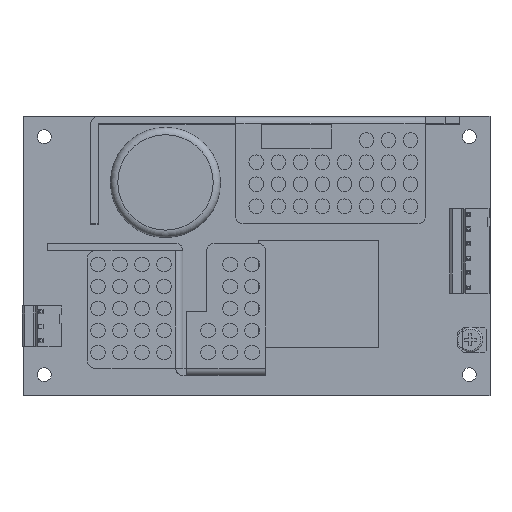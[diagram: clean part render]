
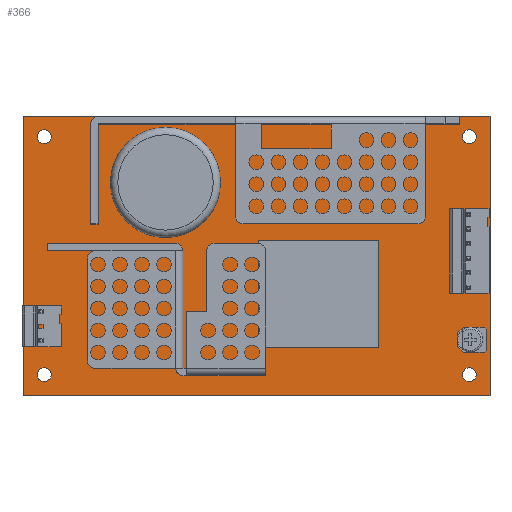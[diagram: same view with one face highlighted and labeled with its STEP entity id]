
A CAD part, top view. The second image highlights one B-rep face of the part: STEP entity #366.
In plain terms, the highlighted planar face has unit normal (0, 0, 1).
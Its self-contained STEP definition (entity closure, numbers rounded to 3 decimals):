
#112=CARTESIAN_POINT('',(101.034,-3.695,1.6));
#113=VERTEX_POINT('',#112);
#114=CARTESIAN_POINT('',(99.134,-3.695,1.6));
#115=DIRECTION('',(0.0,0.0,-1.0));
#116=DIRECTION('',(-1.0,0.0,0.0));
#117=AXIS2_PLACEMENT_3D('',#114,#115,#116);
#118=CIRCLE('',#117,1.9);
#119=EDGE_CURVE('',#113,#113,#118,.T.);
#140=CARTESIAN_POINT('',(-14.766,-3.695,1.6));
#141=VERTEX_POINT('',#140);
#142=CARTESIAN_POINT('',(-16.666,-3.695,1.6));
#143=DIRECTION('',(0.0,0.0,-1.0));
#144=DIRECTION('',(-1.0,0.0,0.0));
#145=AXIS2_PLACEMENT_3D('',#142,#143,#144);
#146=CIRCLE('',#145,1.9);
#147=EDGE_CURVE('',#141,#141,#146,.T.);
#168=CARTESIAN_POINT('',(101.034,61.105,1.6));
#169=VERTEX_POINT('',#168);
#170=CARTESIAN_POINT('',(99.134,61.105,1.6));
#171=DIRECTION('',(0.0,0.0,-1.0));
#172=DIRECTION('',(-1.0,0.0,0.0));
#173=AXIS2_PLACEMENT_3D('',#170,#171,#172);
#174=CIRCLE('',#173,1.9);
#175=EDGE_CURVE('',#169,#169,#174,.T.);
#196=CARTESIAN_POINT('',(-14.766,61.105,1.6));
#197=VERTEX_POINT('',#196);
#198=CARTESIAN_POINT('',(-16.666,61.105,1.6));
#199=DIRECTION('',(0.0,0.0,-1.0));
#200=DIRECTION('',(-1.0,0.0,0.0));
#201=AXIS2_PLACEMENT_3D('',#198,#199,#200);
#202=CIRCLE('',#201,1.9);
#203=EDGE_CURVE('',#197,#197,#202,.T.);
#224=CARTESIAN_POINT('',(104.734,66.705,1.6));
#225=VERTEX_POINT('',#224);
#226=CARTESIAN_POINT('',(104.734,-9.495,1.6));
#227=VERTEX_POINT('',#226);
#228=CARTESIAN_POINT('',(104.734,66.705,1.6));
#229=DIRECTION('',(0.0,-1.0,0.0));
#230=VECTOR('',#229,76.2);
#231=LINE('',#228,#230);
#232=EDGE_CURVE('',#225,#227,#231,.T.);
#264=CARTESIAN_POINT('',(-22.266,-9.495,1.6));
#265=VERTEX_POINT('',#264);
#266=CARTESIAN_POINT('',(104.734,-9.495,1.6));
#267=DIRECTION('',(-1.0,0.0,0.0));
#268=VECTOR('',#267,127.);
#269=LINE('',#266,#268);
#270=EDGE_CURVE('',#227,#265,#269,.T.);
#295=CARTESIAN_POINT('',(-22.266,66.705,1.6));
#296=VERTEX_POINT('',#295);
#297=CARTESIAN_POINT('',(-22.266,-9.495,1.6));
#298=DIRECTION('',(0.0,1.0,0.0));
#299=VECTOR('',#298,76.2);
#300=LINE('',#297,#299);
#301=EDGE_CURVE('',#265,#296,#300,.T.);
#326=CARTESIAN_POINT('',(-22.266,66.705,1.6));
#327=DIRECTION('',(1.0,0.0,0.0));
#328=VECTOR('',#327,127.);
#329=LINE('',#326,#328);
#330=EDGE_CURVE('',#296,#225,#329,.T.);
#343=CARTESIAN_POINT('',(41.234,28.605,1.6));
#344=DIRECTION('',(0.0,0.0,1.0));
#345=DIRECTION('',(1.0,0.0,0.0));
#346=AXIS2_PLACEMENT_3D('',#343,#344,#345);
#347=PLANE('',#346);
#348=ORIENTED_EDGE('',*,*,#232,.F.);
#349=ORIENTED_EDGE('',*,*,#330,.F.);
#350=ORIENTED_EDGE('',*,*,#301,.F.);
#351=ORIENTED_EDGE('',*,*,#270,.F.);
#352=EDGE_LOOP('',(#348,#349,#350,#351));
#353=FACE_OUTER_BOUND('',#352,.T.);
#354=ORIENTED_EDGE('',*,*,#119,.T.);
#355=EDGE_LOOP('',(#354));
#356=FACE_BOUND('',#355,.T.);
#357=ORIENTED_EDGE('',*,*,#147,.T.);
#358=EDGE_LOOP('',(#357));
#359=FACE_BOUND('',#358,.T.);
#360=ORIENTED_EDGE('',*,*,#175,.T.);
#361=EDGE_LOOP('',(#360));
#362=FACE_BOUND('',#361,.T.);
#363=ORIENTED_EDGE('',*,*,#203,.T.);
#364=EDGE_LOOP('',(#363));
#365=FACE_BOUND('',#364,.T.);
#366=ADVANCED_FACE('',(#353,#356,#359,#362,#365),#347,.T.);
